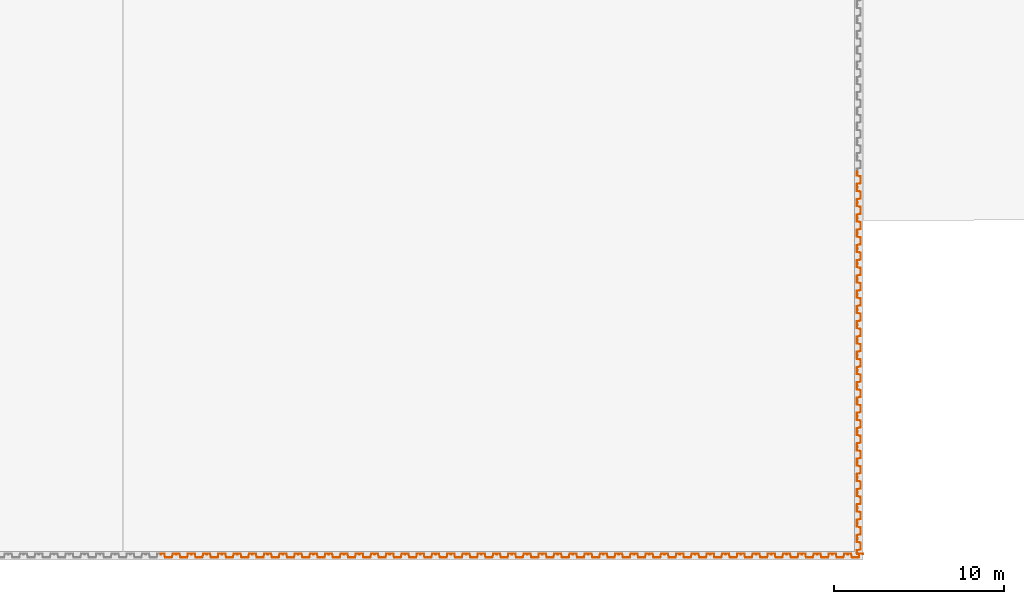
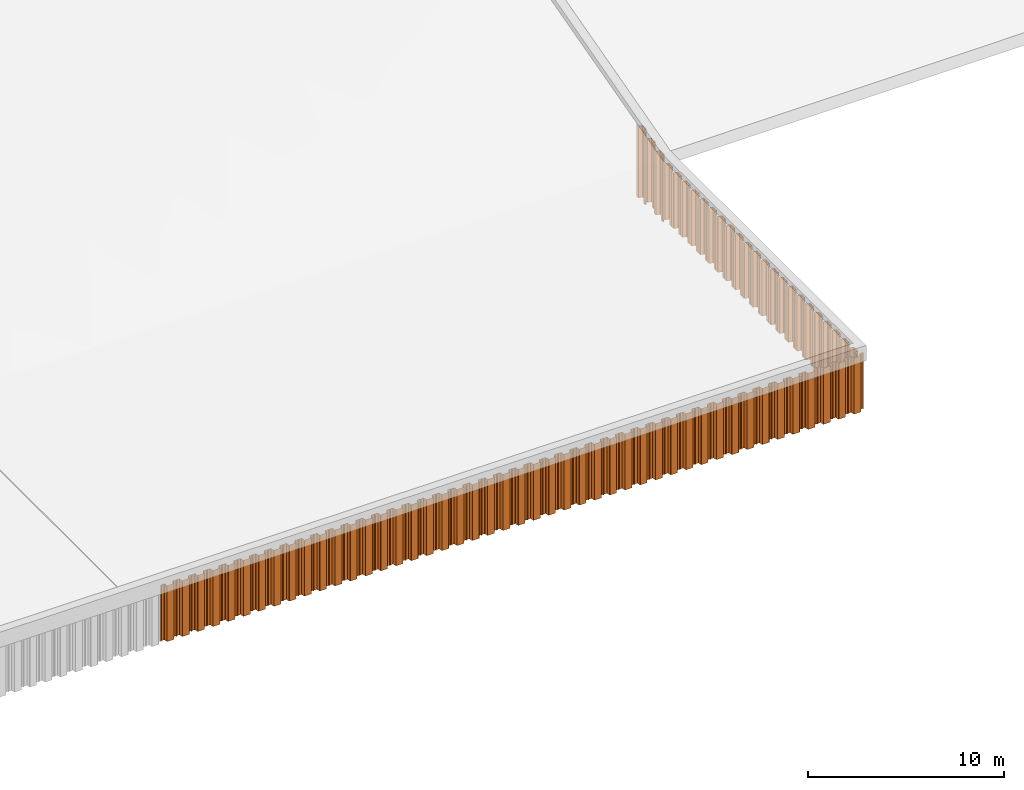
# One storey, part 21 of 32: 71 proxies.
"""IFC2X3 building model written with IfcOpenShell, lengths in millimetres."""

from ifc_helpers import new_model, entity, si_unit, converted_unit, derived_unit, direction, frame, frame_2d, origin, place, context, subcontext, project, spatial, polyline, circle_curve, parameter, trimmed, segment, composite_curve, outline, extrude, source, transform, mapped, type_object, type_shapes, element, save


model = new_model("IFC2X3")

# Units and contexts
model_context = context("Model", 3, precision=0.01, world=origin(), true_north=direction((6.12303176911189e-17, 1.0)))
body_context = subcontext(model_context, "Body", "Model", "MODEL_VIEW")
ifc_project = project(units=[si_unit("LENGTHUNIT", "METRE", prefix="MILLI"), si_unit("AREAUNIT", "SQUARE_METRE"), si_unit("VOLUMEUNIT", "CUBIC_METRE"), converted_unit("PLANEANGLEUNIT", "DEGREE", entity("IfcRatioMeasure", 0.0174532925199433), si_unit("PLANEANGLEUNIT", "RADIAN"), dimensions=[0, 0, 0, 0, 0, 0, 0]), si_unit("MASSUNIT", "GRAM", prefix="KILO"), derived_unit("MASSDENSITYUNIT", [(si_unit("MASSUNIT", "GRAM", prefix="KILO"), 1), (si_unit("LENGTHUNIT", "METRE"), -3)]), si_unit("TIMEUNIT", "SECOND"), si_unit("FREQUENCYUNIT", "HERTZ"), si_unit("THERMODYNAMICTEMPERATUREUNIT", "DEGREE_CELSIUS"), derived_unit("THERMALTRANSMITTANCEUNIT", [(si_unit("MASSUNIT", "GRAM", prefix="KILO"), 1), (si_unit("THERMODYNAMICTEMPERATUREUNIT", "KELVIN"), -1), (si_unit("TIMEUNIT", "SECOND"), -3)]), derived_unit("VOLUMETRICFLOWRATEUNIT", [(si_unit("LENGTHUNIT", "METRE"), 3), (si_unit("TIMEUNIT", "SECOND"), -1)]), si_unit("ELECTRICCURRENTUNIT", "AMPERE"), si_unit("ELECTRICVOLTAGEUNIT", "VOLT"), si_unit("POWERUNIT", "WATT"), si_unit("FORCEUNIT", "NEWTON", prefix="KILO"), si_unit("ILLUMINANCEUNIT", "LUX"), si_unit("LUMINOUSFLUXUNIT", "LUMEN"), si_unit("LUMINOUSINTENSITYUNIT", "CANDELA"), derived_unit("USERDEFINED", [(si_unit("MASSUNIT", "GRAM", prefix="KILO"), -1), (si_unit("LENGTHUNIT", "METRE"), -2), (si_unit("TIMEUNIT", "SECOND"), 3), (si_unit("LUMINOUSFLUXUNIT", "LUMEN"), 1)]), derived_unit("LINEARVELOCITYUNIT", [(si_unit("LENGTHUNIT", "METRE"), 1), (si_unit("TIMEUNIT", "SECOND"), -1)]), si_unit("PRESSUREUNIT", "PASCAL"), derived_unit("USERDEFINED", [(si_unit("LENGTHUNIT", "METRE"), -2), (si_unit("MASSUNIT", "GRAM", prefix="KILO"), 1), (si_unit("TIMEUNIT", "SECOND"), -2)])], contexts=[model_context])

# Site, building, storey
site_placement = place(None, origin())
site = spatial("IfcSite", under=ifc_project, at=site_placement, Name="Default", CompositionType="ELEMENT")
building_placement = place(site_placement, origin())
building = spatial("IfcBuilding", under=site, at=building_placement, CompositionType="ELEMENT")
storey_placement = place(building_placement, origin())
storey = spatial("IfcBuildingStorey", under=building, at=storey_placement, Name="矢板", CompositionType="ELEMENT", Elevation=0.0)

# Proxies
building_element_proxy_type_1 = type_object("IfcBuildingElementProxyType", Name="鋼矢板10H型", PredefinedType="NOTDEFINED")
shared_shape_1 = source(origin(), body_context, "Body", "SweptSolid", [
    extrude(outline(composite_curve([segment(trimmed(circle_curve(frame_2d((85.3662976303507, 306.644432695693), x_axis=(0.422618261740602, 0.906307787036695)), 13.885714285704), [parameter(24.9999999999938)], [parameter(90.0000000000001)], True, "PARAMETER"), True, "CONTINUOUS"), segment(polyline([(72.7815666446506, 312.512789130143), (9.8129512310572, 177.476157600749)]), True, "CONTINUOUS"), segment(trimmed(circle_curve(frame_2d((29.3891994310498, 168.347603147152), x_axis=(0.422618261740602, 0.906307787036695)), 21.6), [parameter(90.0000000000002)], [parameter(168.69006752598)], True, "PARAMETER"), True, "CONTINUOUS"), segment(polyline([(16.598697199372, 150.941769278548), (175.329723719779, 34.2998683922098)]), True, "CONTINUOUS"), segment(trimmed(circle_curve(frame_2d((168.93447260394, 25.596951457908), x_axis=(0.422618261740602, 0.906307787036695)), 10.7999999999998), [parameter(270.0)], [parameter(348.690067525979)], True, "PARAMETER"), False, "CONTINUOUS"), segment(polyline([(178.722596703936, 21.0326742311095), (18.2974003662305, -323.000269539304)]), True, "CONTINUOUS"), segment(trimmed(circle_curve(frame_2d((8.50927626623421, -318.435992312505), x_axis=(0.422618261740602, 0.906307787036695)), 10.8), [parameter(191.30993247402)], [parameter(269.999999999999)], True, "PARAMETER"), False, "CONTINUOUS"), segment(polyline([(5.95324328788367, -328.929166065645), (-185.429973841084, -282.310113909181)]), True, "CONTINUOUS"), segment(trimmed(circle_curve(frame_2d((-190.542039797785, -303.296461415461), x_axis=(0.422618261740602, 0.906307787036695)), 21.6000000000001), [parameter(11.3099324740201)], [parameter(90.0000000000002)], True, "PARAMETER"), True, "CONTINUOUS"), segment(polyline([(-210.118287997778, -294.167906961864), (-290.330886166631, -466.184378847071)]), True, "CONTINUOUS"), segment(trimmed(circle_curve(frame_2d((-270.754637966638, -475.312933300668), x_axis=(0.422618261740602, 0.906307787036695)), 21.6), [parameter(90.0000000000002)], [parameter(269.999999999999)], True, "PARAMETER"), True, "CONTINUOUS"), segment(polyline([(-251.178389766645, -484.441487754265), (-249.065298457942, -479.909948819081)]), True, "CONTINUOUS"), segment(polyline([(-249.065298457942, -479.909948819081), (-258.853422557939, -475.345671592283)]), True, "CONTINUOUS"), segment(polyline([(-258.853422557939, -475.345671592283), (-260.966513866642, -479.877210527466)]), True, "CONTINUOUS"), segment(trimmed(circle_curve(frame_2d((-270.754637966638, -475.312933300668), x_axis=(0.422618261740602, 0.906307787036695)), 10.8), [parameter(90.0000000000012)], [parameter(270.0)], True, "PARAMETER"), False, "CONTINUOUS"), segment(polyline([(-280.542762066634, -470.748656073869), (-200.330163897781, -298.732184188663)]), True, "CONTINUOUS"), segment(trimmed(circle_curve(frame_2d((-190.542039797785, -303.296461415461), x_axis=(0.422618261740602, 0.906307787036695)), 10.8), [parameter(11.3099324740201)], [parameter(89.9999999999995)], True, "PARAMETER"), False, "CONTINUOUS"), segment(polyline([(-187.986006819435, -292.803287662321), (3.39721030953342, -339.422339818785)]), True, "CONTINUOUS"), segment(trimmed(circle_curve(frame_2d((8.50927626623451, -318.435992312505), x_axis=(0.422618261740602, 0.906307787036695)), 21.6), [parameter(191.30993247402)], [parameter(270.0)], True, "PARAMETER"), True, "CONTINUOUS"), segment(polyline([(28.0855244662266, -327.564546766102), (188.510720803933, 16.4683970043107)]), True, "CONTINUOUS"), segment(trimmed(circle_curve(frame_2d((168.93447260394, 25.5969514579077), x_axis=(0.422618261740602, 0.906307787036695)), 21.6), [parameter(270.0)], [parameter(348.69006752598)], True, "PARAMETER"), True, "CONTINUOUS"), segment(polyline([(181.724974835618, 43.0027853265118), (22.9939483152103, 159.644686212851)]), True, "CONTINUOUS"), segment(trimmed(circle_curve(frame_2d((29.3891994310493, 168.347603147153), x_axis=(0.422618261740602, 0.906307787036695)), 10.7999999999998), [parameter(89.9999999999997)], [parameter(168.690067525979)], True, "PARAMETER"), False, "CONTINUOUS"), segment(polyline([(19.6010753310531, 172.911880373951), (82.5696907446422, 307.948511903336)]), True, "CONTINUOUS"), segment(trimmed(circle_curve(frame_2d((85.3662976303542, 306.64443269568), x_axis=(0.422618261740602, 0.906307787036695)), 3.08571428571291), [parameter(25.0000000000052)], [parameter(90.0000000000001)], True, "PARAMETER"), False, "CONTINUOUS"), segment(polyline([(85.3662976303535, 309.730146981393), (122.220231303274, 309.730146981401)]), True, "CONTINUOUS"), segment(trimmed(circle_curve(frame_2d((122.220231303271, 323.615861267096), x_axis=(0.422618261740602, 0.906307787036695)), 13.8857142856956), [parameter(205.000000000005)], [parameter(270.0)], True, "PARAMETER"), True, "CONTINUOUS"), segment(polyline([(134.804962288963, 317.747504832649), (141.079261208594, 331.202782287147)]), True, "CONTINUOUS"), segment(trimmed(circle_curve(frame_2d((121.503013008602, 340.331336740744), x_axis=(0.422618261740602, 0.906307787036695)), 21.6), [parameter(270.0)], [parameter(90.0000000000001)], True, "PARAMETER"), True, "CONTINUOUS"), segment(polyline([(101.926764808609, 349.459891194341), (99.8136734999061, 344.928352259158)]), True, "CONTINUOUS"), segment(polyline([(99.8136734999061, 344.928352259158), (109.601797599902, 340.364075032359)]), True, "CONTINUOUS"), segment(polyline([(109.601797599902, 340.364075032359), (111.714888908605, 344.895613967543)]), True, "CONTINUOUS"), segment(trimmed(circle_curve(frame_2d((121.503013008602, 340.331336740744), x_axis=(0.422618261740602, 0.906307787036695)), 10.8), [parameter(270.0)], [parameter(89.9999999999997)], True, "PARAMETER"), False, "CONTINUOUS"), segment(polyline([(131.291137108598, 335.767059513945), (125.01683818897, 322.311782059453)]), True, "CONTINUOUS"), segment(trimmed(circle_curve(frame_2d((122.220231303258, 323.615861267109), x_axis=(0.422618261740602, 0.906307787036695)), 3.08571428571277), [parameter(204.999999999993)], [parameter(270.0)], True, "PARAMETER"), False, "CONTINUOUS"), segment(polyline([(122.220231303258, 320.530146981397), (85.3662976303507, 320.530146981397)]), True, "CONTINUOUS")], self_intersect=False)), frame((95.205667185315, -48.8888888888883, -3500.0), z_axis=(0.0, 0.0, -1.0), x_axis=(0.4226182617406, 0.906307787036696, 0.0)), (0.0, 0.0, -1.0), 3500.0),
])
type_shapes(building_element_proxy_type_1, [shared_shape_1])
for number, where, z_axis, x_axis in (
    (1, (148500.0, -33049.0, 5850.0), (0.0, 0.0, 1.0), (0.0, -1.0, 0.0)),
    (2, (148500.0, -33949.0, 5850.0), (0.0, 0.0, 1.0), (0.0, -1.0, 0.0)),
    (3, (148500.0, -34849.0, 5850.0), (0.0, 0.0, 1.0), (0.0, -1.0, 0.0)),
    (4, (148500.0, -35749.0, 5850.0), (0.0, 0.0, 1.0), (0.0, -1.0, 0.0)),
    (5, (148500.0, -36649.0, 5850.0), (0.0, 0.0, 1.0), (0.0, -1.0, 0.0)),
    (6, (148500.0, -37549.0, 5850.0), (0.0, 0.0, 1.0), (0.0, -1.0, 0.0)),
    (7, (148500.0, -38449.0, 5850.0), (0.0, 0.0, 1.0), (0.0, -1.0, 0.0)),
    (8, (148500.0, -39349.0, 5850.0), (0.0, 0.0, 1.0), (0.0, -1.0, 0.0)),
    (9, (148500.0, -40249.0, 5850.0), (0.0, 0.0, 1.0), (0.0, -1.0, 0.0)),
    (10, (148500.0, -41149.0, 5850.0), (0.0, 0.0, 1.0), (0.0, -1.0, 0.0)),
    (11, (148500.0, -42049.0, 5850.0), (0.0, 0.0, 1.0), (0.0, -1.0, 0.0)),
    (12, (148500.0, -42949.0, 5850.0), (0.0, 0.0, 1.0), (0.0, -1.0, 0.0)),
    (13, (148500.0, -43849.0, 5850.0), (0.0, 0.0, 1.0), (0.0, -1.0, 0.0)),
    (14, (148500.0, -44749.0, 5850.0), (0.0, 0.0, 1.0), (0.0, -1.0, 0.0)),
    (15, (148500.0, -45649.0, 5850.0), (0.0, 0.0, 1.0), (0.0, -1.0, 0.0)),
    (16, (148500.0, -46549.0, 5850.0), (0.0, 0.0, 1.0), (0.0, -1.0, 0.0)),
    (17, (148500.0, -47449.0, 5850.0), (0.0, 0.0, 1.0), (0.0, -1.0, 0.0)),
    (18, (148500.0, -48349.0, 5850.0), (0.0, 0.0, 1.0), (0.0, -1.0, 0.0)),
    (19, (148500.0, -49249.0, 5850.0), (0.0, 0.0, 1.0), (0.0, -1.0, 0.0)),
    (20, (148500.0, -50149.0, 5850.0), (0.0, 0.0, 1.0), (0.0, -1.0, 0.0)),
    (21, (148500.0, -51049.0, 5850.0), (0.0, 0.0, 1.0), (0.0, -1.0, 0.0)),
    (22, (148500.0, -51949.0, 5850.0), (0.0, 0.0, 1.0), (0.0, -1.0, 0.0)),
    (23, (148302.5, -52500.0, 5850.0), (0.0, 0.0, 1.0), (-1.0, 0.0, 0.0)),
    (24, (147402.5, -52500.0, 5850.0), (0.0, 0.0, 1.0), (-1.0, 0.0, 0.0)),
    (25, (146502.5, -52500.0, 5850.0), (0.0, 0.0, 1.0), (-1.0, 0.0, 0.0)),
    (26, (145602.5, -52500.0, 5850.0), (0.0, 0.0, 1.0), (-1.0, 0.0, 0.0)),
    (27, (144702.5, -52500.0, 5850.0), (0.0, 0.0, 1.0), (-1.0, 0.0, 0.0)),
    (28, (143802.5, -52500.0, 5850.0), (0.0, 0.0, 1.0), (-1.0, 0.0, 0.0)),
    (29, (142902.5, -52500.0, 5850.0), (0.0, 0.0, 1.0), (-1.0, 0.0, 0.0)),
    (30, (142002.5, -52500.0, 5850.0), (0.0, 0.0, 1.0), (-1.0, 0.0, 0.0)),
    (31, (141102.5, -52500.0, 5850.0), (0.0, 0.0, 1.0), (-1.0, 0.0, 0.0)),
    (32, (140202.5, -52500.0, 5850.0), (0.0, 0.0, 1.0), (-1.0, 0.0, 0.0)),
    (33, (139302.5, -52500.0, 5850.0), (0.0, 0.0, 1.0), (-1.0, 0.0, 0.0)),
    (34, (138402.5, -52500.0, 5850.0), (0.0, 0.0, 1.0), (-1.0, 0.0, 0.0)),
    (35, (137502.5, -52500.0, 5850.0), (0.0, 0.0, 1.0), (-1.0, 0.0, 0.0)),
    (36, (136602.5, -52500.0, 5850.0), (0.0, 0.0, 1.0), (-1.0, 0.0, 0.0)),
    (37, (135702.5, -52500.0, 5850.0), (0.0, 0.0, 1.0), (-1.0, 0.0, 0.0)),
    (38, (134802.5, -52500.0, 5850.0), (0.0, 0.0, 1.0), (-1.0, 0.0, 0.0)),
    (39, (133902.5, -52500.0, 5850.0), (0.0, 0.0, 1.0), (-1.0, 0.0, 0.0)),
    (40, (133002.5, -52500.0, 5850.0), (0.0, 0.0, 1.0), (-1.0, 0.0, 0.0)),
    (41, (132102.5, -52500.0, 5850.0), (0.0, 0.0, 1.0), (-1.0, 0.0, 0.0)),
    (42, (131202.5, -52500.0, 5850.0), (0.0, 0.0, 1.0), (-1.0, 0.0, 0.0)),
    (43, (130302.5, -52500.0, 5850.0), (0.0, 0.0, 1.0), (-1.0, 0.0, 0.0)),
    (44, (129402.5, -52500.0, 5850.0), (0.0, 0.0, 1.0), (-1.0, 0.0, 0.0)),
    (45, (128502.5, -52500.0, 5850.0), (0.0, 0.0, 1.0), (-1.0, 0.0, 0.0)),
    (46, (127602.5, -52500.0, 5850.0), (0.0, 0.0, 1.0), (-1.0, 0.0, 0.0)),
    (47, (126702.5, -52500.0, 5850.0), (0.0, 0.0, 1.0), (-1.0, 0.0, 0.0)),
    (48, (125802.5, -52500.0, 5850.0), (0.0, 0.0, 1.0), (-1.0, 0.0, 0.0)),
    (49, (124902.5, -52500.0, 5850.0), (0.0, 0.0, 1.0), (-1.0, 0.0, 0.0)),
    (50, (124002.5, -52500.0, 5850.0), (0.0, 0.0, 1.0), (-1.0, 0.0, 0.0)),
    (51, (123102.5, -52500.0, 5850.0), (0.0, 0.0, 1.0), (-1.0, 0.0, 0.0)),
    (52, (122202.5, -52500.0, 5850.0), (0.0, 0.0, 1.0), (-1.0, 0.0, 0.0)),
    (53, (121302.5, -52500.0, 5850.0), (0.0, 0.0, 1.0), (-1.0, 0.0, 0.0)),
    (54, (120402.5, -52500.0, 5850.0), (0.0, 0.0, 1.0), (-1.0, 0.0, 0.0)),
    (55, (119502.5, -52500.0, 5850.0), (0.0, 0.0, 1.0), (-1.0, 0.0, 0.0)),
    (56, (118602.5, -52500.0, 5850.0), (0.0, 0.0, 1.0), (-1.0, 0.0, 0.0)),
    (57, (117702.5, -52500.0, 5850.0), (0.0, 0.0, 1.0), (-1.0, 0.0, 0.0)),
    (58, (116802.5, -52500.0, 5850.0), (0.0, 0.0, 1.0), (-1.0, 0.0, 0.0)),
    (59, (115902.5, -52500.0, 5850.0), (0.0, 0.0, 1.0), (-1.0, 0.0, 0.0)),
    (60, (115002.5, -52500.0, 5850.0), (0.0, 0.0, 1.0), (-1.0, 0.0, 0.0)),
    (61, (114102.5, -52500.0, 5850.0), (0.0, 0.0, 1.0), (-1.0, 0.0, 0.0)),
    (62, (113202.5, -52500.0, 5850.0), (0.0, 0.0, 1.0), (-1.0, 0.0, 0.0)),
    (63, (112302.5, -52500.0, 5850.0), (0.0, 0.0, 1.0), (-1.0, 0.0, 0.0)),
    (64, (111402.5, -52500.0, 5850.0), (0.0, 0.0, 1.0), (-1.0, 0.0, 0.0)),
    (65, (110502.5, -52500.0, 5850.0), (0.0, 0.0, 1.0), (-1.0, 0.0, 0.0)),
    (66, (109602.5, -52500.0, 5850.0), (0.0, 0.0, 1.0), (-1.0, 0.0, 0.0)),
    (67, (108702.5, -52500.0, 5850.0), (0.0, 0.0, 1.0), (-1.0, 0.0, 0.0)),
    (68, (107802.5, -52500.0, 5850.0), (0.0, 0.0, 1.0), (-1.0, 0.0, 0.0)),
):
    element("IfcBuildingElementProxy", number, at=place(storey_placement, frame(where, z_axis=z_axis, x_axis=x_axis)), inside=storey, type_object=building_element_proxy_type_1, Name="鋼矢板10H型:鋼矢板10H型", ObjectType="鋼矢板10H型:鋼矢板10H型", context=body_context, shape_type="MappedRepresentation", body=[
        mapped(shared_shape_1, transform((0.0, 0.0, 0.0), scale=1.0)),
    ])
building_element_proxy_type_2 = type_object("IfcBuildingElementProxyType", Name="鋼矢板10H型", PredefinedType="NOTDEFINED")
shared_shape_2 = source(origin(), body_context, "Body", "SweptSolid", [
    extrude(outline(composite_curve([segment(trimmed(circle_curve(frame_2d((85.3662976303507, 306.644432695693), x_axis=(0.422618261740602, 0.906307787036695)), 13.885714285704), [parameter(24.9999999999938)], [parameter(90.0000000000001)], True, "PARAMETER"), True, "CONTINUOUS"), segment(polyline([(72.7815666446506, 312.512789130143), (9.8129512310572, 177.476157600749)]), True, "CONTINUOUS"), segment(trimmed(circle_curve(frame_2d((29.3891994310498, 168.347603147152), x_axis=(0.422618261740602, 0.906307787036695)), 21.6), [parameter(90.0000000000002)], [parameter(168.69006752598)], True, "PARAMETER"), True, "CONTINUOUS"), segment(polyline([(16.598697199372, 150.941769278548), (175.329723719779, 34.2998683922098)]), True, "CONTINUOUS"), segment(trimmed(circle_curve(frame_2d((168.93447260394, 25.596951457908), x_axis=(0.422618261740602, 0.906307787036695)), 10.7999999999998), [parameter(270.0)], [parameter(348.690067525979)], True, "PARAMETER"), False, "CONTINUOUS"), segment(polyline([(178.722596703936, 21.0326742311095), (18.2974003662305, -323.000269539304)]), True, "CONTINUOUS"), segment(trimmed(circle_curve(frame_2d((8.50927626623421, -318.435992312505), x_axis=(0.422618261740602, 0.906307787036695)), 10.8), [parameter(191.30993247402)], [parameter(269.999999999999)], True, "PARAMETER"), False, "CONTINUOUS"), segment(polyline([(5.95324328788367, -328.929166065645), (-185.429973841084, -282.310113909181)]), True, "CONTINUOUS"), segment(trimmed(circle_curve(frame_2d((-190.542039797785, -303.296461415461), x_axis=(0.422618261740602, 0.906307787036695)), 21.6000000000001), [parameter(11.3099324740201)], [parameter(90.0000000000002)], True, "PARAMETER"), True, "CONTINUOUS"), segment(polyline([(-210.118287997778, -294.167906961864), (-290.330886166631, -466.184378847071)]), True, "CONTINUOUS"), segment(trimmed(circle_curve(frame_2d((-270.754637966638, -475.312933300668), x_axis=(0.422618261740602, 0.906307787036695)), 21.6), [parameter(90.0000000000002)], [parameter(269.999999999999)], True, "PARAMETER"), True, "CONTINUOUS"), segment(polyline([(-251.178389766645, -484.441487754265), (-249.065298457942, -479.909948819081)]), True, "CONTINUOUS"), segment(polyline([(-249.065298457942, -479.909948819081), (-258.853422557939, -475.345671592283)]), True, "CONTINUOUS"), segment(polyline([(-258.853422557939, -475.345671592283), (-260.966513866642, -479.877210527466)]), True, "CONTINUOUS"), segment(trimmed(circle_curve(frame_2d((-270.754637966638, -475.312933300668), x_axis=(0.422618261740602, 0.906307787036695)), 10.8), [parameter(90.0000000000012)], [parameter(270.0)], True, "PARAMETER"), False, "CONTINUOUS"), segment(polyline([(-280.542762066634, -470.748656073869), (-200.330163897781, -298.732184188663)]), True, "CONTINUOUS"), segment(trimmed(circle_curve(frame_2d((-190.542039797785, -303.296461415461), x_axis=(0.422618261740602, 0.906307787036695)), 10.8), [parameter(11.3099324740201)], [parameter(89.9999999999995)], True, "PARAMETER"), False, "CONTINUOUS"), segment(polyline([(-187.986006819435, -292.803287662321), (3.39721030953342, -339.422339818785)]), True, "CONTINUOUS"), segment(trimmed(circle_curve(frame_2d((8.50927626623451, -318.435992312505), x_axis=(0.422618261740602, 0.906307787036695)), 21.6), [parameter(191.30993247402)], [parameter(270.0)], True, "PARAMETER"), True, "CONTINUOUS"), segment(polyline([(28.0855244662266, -327.564546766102), (188.510720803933, 16.4683970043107)]), True, "CONTINUOUS"), segment(trimmed(circle_curve(frame_2d((168.93447260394, 25.5969514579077), x_axis=(0.422618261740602, 0.906307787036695)), 21.6), [parameter(270.0)], [parameter(348.69006752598)], True, "PARAMETER"), True, "CONTINUOUS"), segment(polyline([(181.724974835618, 43.0027853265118), (22.9939483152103, 159.644686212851)]), True, "CONTINUOUS"), segment(trimmed(circle_curve(frame_2d((29.3891994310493, 168.347603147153), x_axis=(0.422618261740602, 0.906307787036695)), 10.7999999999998), [parameter(89.9999999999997)], [parameter(168.690067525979)], True, "PARAMETER"), False, "CONTINUOUS"), segment(polyline([(19.6010753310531, 172.911880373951), (82.5696907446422, 307.948511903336)]), True, "CONTINUOUS"), segment(trimmed(circle_curve(frame_2d((85.3662976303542, 306.64443269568), x_axis=(0.422618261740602, 0.906307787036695)), 3.08571428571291), [parameter(25.0000000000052)], [parameter(90.0000000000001)], True, "PARAMETER"), False, "CONTINUOUS"), segment(polyline([(85.3662976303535, 309.730146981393), (122.220231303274, 309.730146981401)]), True, "CONTINUOUS"), segment(trimmed(circle_curve(frame_2d((122.220231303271, 323.615861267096), x_axis=(0.422618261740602, 0.906307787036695)), 13.8857142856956), [parameter(205.000000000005)], [parameter(270.0)], True, "PARAMETER"), True, "CONTINUOUS"), segment(polyline([(134.804962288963, 317.747504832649), (141.079261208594, 331.202782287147)]), True, "CONTINUOUS"), segment(trimmed(circle_curve(frame_2d((121.503013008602, 340.331336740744), x_axis=(0.422618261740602, 0.906307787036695)), 21.6), [parameter(270.0)], [parameter(90.0000000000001)], True, "PARAMETER"), True, "CONTINUOUS"), segment(polyline([(101.926764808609, 349.459891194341), (99.8136734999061, 344.928352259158)]), True, "CONTINUOUS"), segment(polyline([(99.8136734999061, 344.928352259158), (109.601797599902, 340.364075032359)]), True, "CONTINUOUS"), segment(polyline([(109.601797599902, 340.364075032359), (111.714888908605, 344.895613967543)]), True, "CONTINUOUS"), segment(trimmed(circle_curve(frame_2d((121.503013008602, 340.331336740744), x_axis=(0.422618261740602, 0.906307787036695)), 10.8), [parameter(270.0)], [parameter(89.9999999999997)], True, "PARAMETER"), False, "CONTINUOUS"), segment(polyline([(131.291137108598, 335.767059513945), (125.01683818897, 322.311782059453)]), True, "CONTINUOUS"), segment(trimmed(circle_curve(frame_2d((122.220231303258, 323.615861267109), x_axis=(0.422618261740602, 0.906307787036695)), 3.08571428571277), [parameter(204.999999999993)], [parameter(270.0)], True, "PARAMETER"), False, "CONTINUOUS"), segment(polyline([(122.220231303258, 320.530146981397), (85.3662976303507, 320.530146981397)]), True, "CONTINUOUS")], self_intersect=False)), frame((95.205667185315, -48.8888888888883, -4500.0), z_axis=(0.0, 0.0, -1.0), x_axis=(0.4226182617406, 0.906307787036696, 0.0)), (0.0, 0.0, -1.0), 4500.0),
])
type_shapes(building_element_proxy_type_2, [shared_shape_2])
proxy_placement = place(storey_placement, frame((148500.0, -30349.0, 6575.0), z_axis=(0.0, 0.0, 1.0), x_axis=(0.0, -1.0, 0.0)))
element("IfcBuildingElementProxy", 69, at=proxy_placement, inside=storey, type_object=building_element_proxy_type_2, Name="鋼矢板10H型:鋼矢板10H型", ObjectType="鋼矢板10H型:鋼矢板10H型", context=body_context, shape_type="MappedRepresentation", body=[
    mapped(shared_shape_2, transform((0.0, 0.0, 0.0), scale=1.0)),
])
building_element_proxy_type_3 = type_object("IfcBuildingElementProxyType", Name="鋼矢板10H型", PredefinedType="NOTDEFINED")
shared_shape_3 = source(origin(), body_context, "Body", "SweptSolid", [
    extrude(outline(composite_curve([segment(trimmed(circle_curve(frame_2d((85.3662976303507, 306.644432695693), x_axis=(0.422618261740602, 0.906307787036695)), 13.885714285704), [parameter(24.9999999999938)], [parameter(90.0000000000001)], True, "PARAMETER"), True, "CONTINUOUS"), segment(polyline([(72.7815666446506, 312.512789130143), (9.8129512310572, 177.476157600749)]), True, "CONTINUOUS"), segment(trimmed(circle_curve(frame_2d((29.3891994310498, 168.347603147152), x_axis=(0.422618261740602, 0.906307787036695)), 21.6), [parameter(90.0000000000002)], [parameter(168.69006752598)], True, "PARAMETER"), True, "CONTINUOUS"), segment(polyline([(16.598697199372, 150.941769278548), (175.329723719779, 34.2998683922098)]), True, "CONTINUOUS"), segment(trimmed(circle_curve(frame_2d((168.93447260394, 25.596951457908), x_axis=(0.422618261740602, 0.906307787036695)), 10.7999999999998), [parameter(270.0)], [parameter(348.690067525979)], True, "PARAMETER"), False, "CONTINUOUS"), segment(polyline([(178.722596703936, 21.0326742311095), (18.2974003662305, -323.000269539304)]), True, "CONTINUOUS"), segment(trimmed(circle_curve(frame_2d((8.50927626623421, -318.435992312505), x_axis=(0.422618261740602, 0.906307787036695)), 10.8), [parameter(191.30993247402)], [parameter(269.999999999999)], True, "PARAMETER"), False, "CONTINUOUS"), segment(polyline([(5.95324328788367, -328.929166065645), (-185.429973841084, -282.310113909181)]), True, "CONTINUOUS"), segment(trimmed(circle_curve(frame_2d((-190.542039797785, -303.296461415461), x_axis=(0.422618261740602, 0.906307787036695)), 21.6000000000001), [parameter(11.3099324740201)], [parameter(90.0000000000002)], True, "PARAMETER"), True, "CONTINUOUS"), segment(polyline([(-210.118287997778, -294.167906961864), (-290.330886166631, -466.184378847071)]), True, "CONTINUOUS"), segment(trimmed(circle_curve(frame_2d((-270.754637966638, -475.312933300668), x_axis=(0.422618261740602, 0.906307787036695)), 21.6), [parameter(90.0000000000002)], [parameter(269.999999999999)], True, "PARAMETER"), True, "CONTINUOUS"), segment(polyline([(-251.178389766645, -484.441487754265), (-249.065298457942, -479.909948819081)]), True, "CONTINUOUS"), segment(polyline([(-249.065298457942, -479.909948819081), (-258.853422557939, -475.345671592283)]), True, "CONTINUOUS"), segment(polyline([(-258.853422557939, -475.345671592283), (-260.966513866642, -479.877210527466)]), True, "CONTINUOUS"), segment(trimmed(circle_curve(frame_2d((-270.754637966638, -475.312933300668), x_axis=(0.422618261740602, 0.906307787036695)), 10.8), [parameter(90.0000000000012)], [parameter(270.0)], True, "PARAMETER"), False, "CONTINUOUS"), segment(polyline([(-280.542762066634, -470.748656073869), (-200.330163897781, -298.732184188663)]), True, "CONTINUOUS"), segment(trimmed(circle_curve(frame_2d((-190.542039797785, -303.296461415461), x_axis=(0.422618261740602, 0.906307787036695)), 10.8), [parameter(11.3099324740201)], [parameter(89.9999999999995)], True, "PARAMETER"), False, "CONTINUOUS"), segment(polyline([(-187.986006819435, -292.803287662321), (3.39721030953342, -339.422339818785)]), True, "CONTINUOUS"), segment(trimmed(circle_curve(frame_2d((8.50927626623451, -318.435992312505), x_axis=(0.422618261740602, 0.906307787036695)), 21.6), [parameter(191.30993247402)], [parameter(270.0)], True, "PARAMETER"), True, "CONTINUOUS"), segment(polyline([(28.0855244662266, -327.564546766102), (188.510720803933, 16.4683970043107)]), True, "CONTINUOUS"), segment(trimmed(circle_curve(frame_2d((168.93447260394, 25.5969514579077), x_axis=(0.422618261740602, 0.906307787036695)), 21.6), [parameter(270.0)], [parameter(348.69006752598)], True, "PARAMETER"), True, "CONTINUOUS"), segment(polyline([(181.724974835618, 43.0027853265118), (22.9939483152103, 159.644686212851)]), True, "CONTINUOUS"), segment(trimmed(circle_curve(frame_2d((29.3891994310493, 168.347603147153), x_axis=(0.422618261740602, 0.906307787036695)), 10.7999999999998), [parameter(89.9999999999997)], [parameter(168.690067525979)], True, "PARAMETER"), False, "CONTINUOUS"), segment(polyline([(19.6010753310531, 172.911880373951), (82.5696907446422, 307.948511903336)]), True, "CONTINUOUS"), segment(trimmed(circle_curve(frame_2d((85.3662976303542, 306.64443269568), x_axis=(0.422618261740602, 0.906307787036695)), 3.08571428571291), [parameter(25.0000000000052)], [parameter(90.0000000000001)], True, "PARAMETER"), False, "CONTINUOUS"), segment(polyline([(85.3662976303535, 309.730146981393), (122.220231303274, 309.730146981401)]), True, "CONTINUOUS"), segment(trimmed(circle_curve(frame_2d((122.220231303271, 323.615861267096), x_axis=(0.422618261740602, 0.906307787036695)), 13.8857142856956), [parameter(205.000000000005)], [parameter(270.0)], True, "PARAMETER"), True, "CONTINUOUS"), segment(polyline([(134.804962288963, 317.747504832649), (141.079261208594, 331.202782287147)]), True, "CONTINUOUS"), segment(trimmed(circle_curve(frame_2d((121.503013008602, 340.331336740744), x_axis=(0.422618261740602, 0.906307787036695)), 21.6), [parameter(270.0)], [parameter(90.0000000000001)], True, "PARAMETER"), True, "CONTINUOUS"), segment(polyline([(101.926764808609, 349.459891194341), (99.8136734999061, 344.928352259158)]), True, "CONTINUOUS"), segment(polyline([(99.8136734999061, 344.928352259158), (109.601797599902, 340.364075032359)]), True, "CONTINUOUS"), segment(polyline([(109.601797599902, 340.364075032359), (111.714888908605, 344.895613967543)]), True, "CONTINUOUS"), segment(trimmed(circle_curve(frame_2d((121.503013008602, 340.331336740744), x_axis=(0.422618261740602, 0.906307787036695)), 10.8), [parameter(270.0)], [parameter(89.9999999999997)], True, "PARAMETER"), False, "CONTINUOUS"), segment(polyline([(131.291137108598, 335.767059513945), (125.01683818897, 322.311782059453)]), True, "CONTINUOUS"), segment(trimmed(circle_curve(frame_2d((122.220231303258, 323.615861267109), x_axis=(0.422618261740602, 0.906307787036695)), 3.08571428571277), [parameter(204.999999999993)], [parameter(270.0)], True, "PARAMETER"), False, "CONTINUOUS"), segment(polyline([(122.220231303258, 320.530146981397), (85.3662976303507, 320.530146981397)]), True, "CONTINUOUS")], self_intersect=False)), frame((95.205667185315, -48.8888888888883, -4000.0), z_axis=(0.0, 0.0, -1.0), x_axis=(0.4226182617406, 0.906307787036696, 0.0)), (0.0, 0.0, -1.0), 4000.0),
])
type_shapes(building_element_proxy_type_3, [shared_shape_3])
for number, where, z_axis, x_axis in (
    (70, (148500.0, -31249.0, 6337.0), (0.0, 0.0, 1.0), (0.0, -1.0, 0.0)),
    (71, (148500.0, -32149.0, 6100.0), (0.0, 0.0, 1.0), (0.0, -1.0, 0.0)),
):
    element("IfcBuildingElementProxy", number, at=place(storey_placement, frame(where, z_axis=z_axis, x_axis=x_axis)), inside=storey, type_object=building_element_proxy_type_3, Name="鋼矢板10H型:鋼矢板10H型", ObjectType="鋼矢板10H型:鋼矢板10H型", context=body_context, shape_type="MappedRepresentation", body=[
        mapped(shared_shape_3, transform((0.0, 0.0, 0.0), scale=1.0)),
    ])

save(model, "model.ifc")
